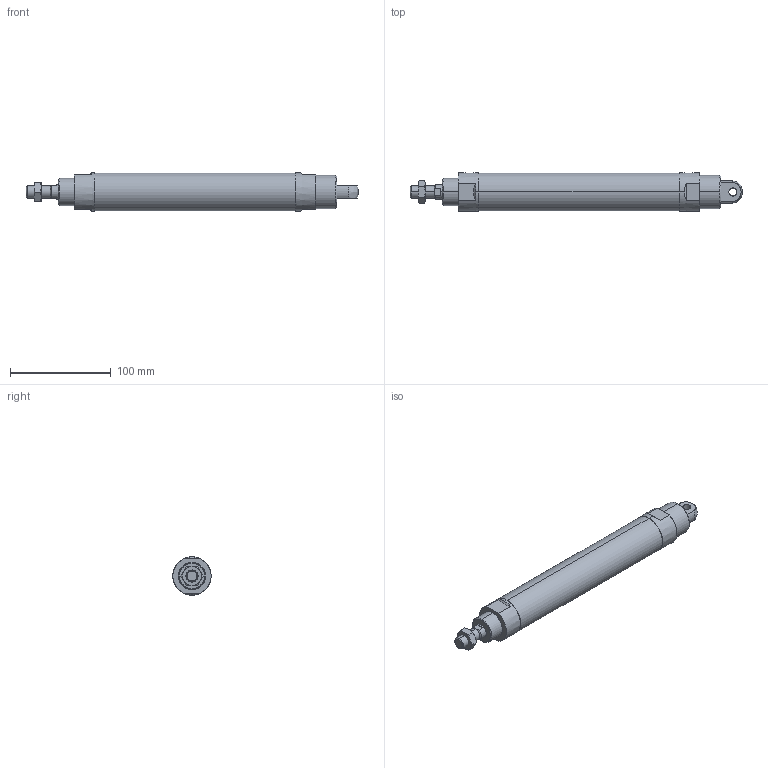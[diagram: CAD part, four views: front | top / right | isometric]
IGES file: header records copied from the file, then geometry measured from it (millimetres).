
Start section: SolidWorks IGES file using analytic representation for surfaces
Global section: file name: C:\Users\Toshiba\Desktop\J#2-32-150-C.IGS; native system: SolidWorks 2014; preprocessor: SolidWorks 2014; author: Toshiba; date: 160308.154046; units: millimetre
Bounding box: 329 x 38 x 38 mm (x, y, z)
Surface area: 38789.6 mm2 (no closed solid volume)
Topology: 0 solids, 0 shells, 81 faces, 1552 edges, 1548 vertices
Faces by surface type: bspline 42, revolution 39
